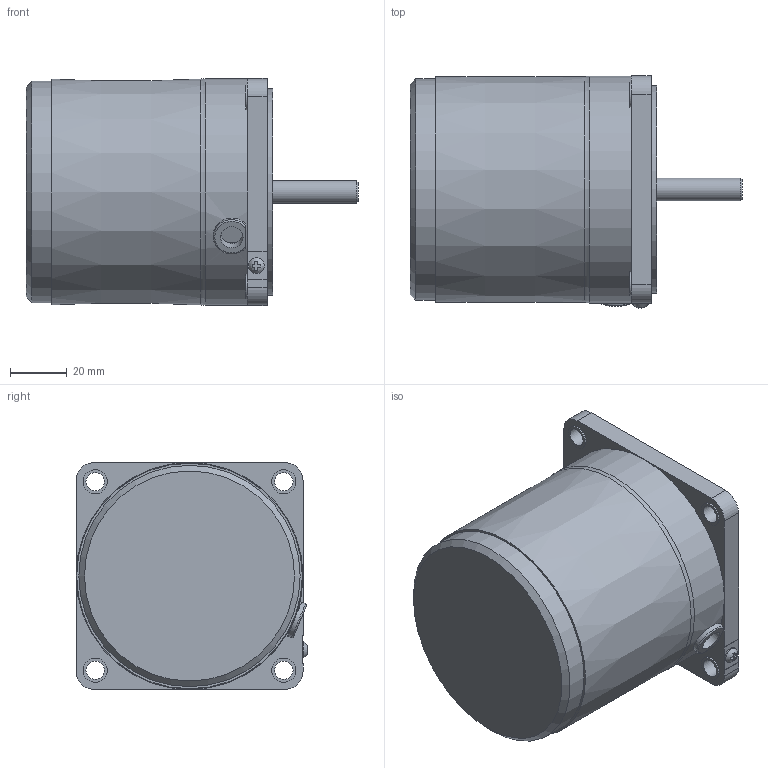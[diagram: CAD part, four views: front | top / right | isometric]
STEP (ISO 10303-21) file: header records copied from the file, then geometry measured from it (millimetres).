
FILE_DESCRIPTION(/* description */ (''),/* implementation_level */ '2;1');
FILE_NAME(/* name */ 'E:\도면작업\2016\0704) 미주향 SG 도면\3D MOTOR\SG8I25S_.stp',/* time_stamp */ '2016-07-22T13:47:23+09:00',/* author */ ('jy-jung'),/* organization */ (''),/* preprocessor_version */ 'ST-DEVELOPER v15.6',/* originating_system */ 'Autodesk Inventor 2015',/* authorisation */ '');
FILE_SCHEMA (('AUTOMOTIVE_DESIGN { 1 0 10303 214 3 1 1 }'));
Length unit declared in the file: millimetre
Products named in the file (1): 부품2
Bounding box: 117 x 81.76 x 80 mm (x, y, z)
Volume: 427828.9 mm3; surface area: 37507 mm2
Topology: 1 solids, 2 shells, 101 faces, 243 edges, 160 vertices
Faces by surface type: plane 63, cylinder 32, cone 3, torus 2, bspline 1
Full cylindrical faces by diameter (mm): 5.6 x1, 6.5 x4, 8 x2, 8.5 x4, 34 x1, 73 x1, 78 x1, 80 x1
Entity records: 3116 total; most frequent: CARTESIAN_POINT 632, DIRECTION 486, ORIENTED_EDGE 448, EDGE_CURVE 224, AXIS2_PLACEMENT_3D 180, VERTEX_POINT 160, EDGE_LOOP 142, LINE 126
